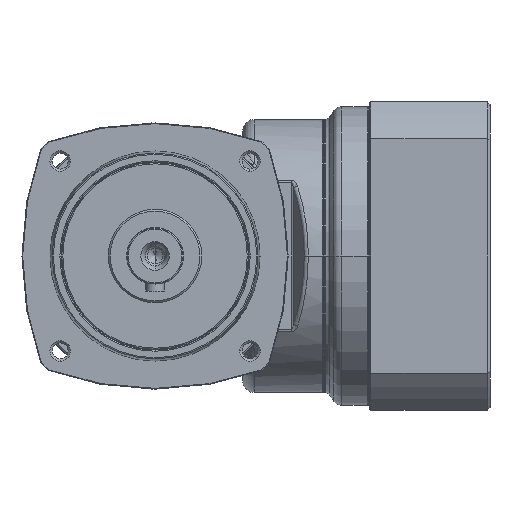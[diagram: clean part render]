
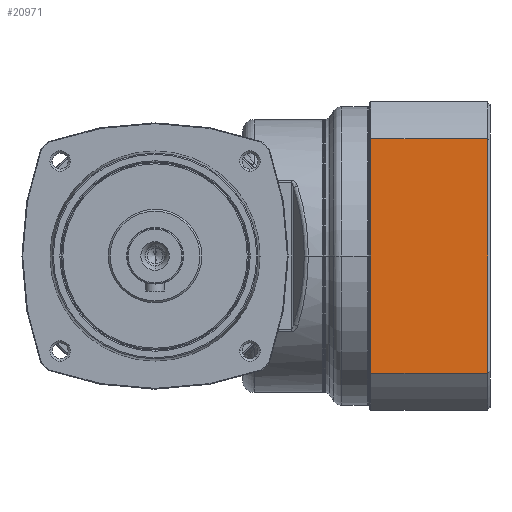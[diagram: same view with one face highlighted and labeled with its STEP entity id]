
A CAD part, left-side view. The second image highlights one B-rep face of the part: STEP entity #20971.
In plain terms, the highlighted planar face has unit normal (-1, 0, 0) as drawn and (0, -1, 0) by its records, which use the part's own axes.
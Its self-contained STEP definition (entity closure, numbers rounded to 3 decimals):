
#19734=DIRECTION('',(1.,0.,0.));
#19735=VECTOR('',#19734,100.658);
#19736=CARTESIAN_POINT('',(-50.329,-66.,53.));
#19737=LINE('',#19736,#19735);
#19738=DIRECTION('',(0.,0.,1.));
#19739=VECTOR('',#19738,50.1);
#19740=CARTESIAN_POINT('',(50.329,-66.,
2.9));
#19741=LINE('',#19740,#19739);
#19742=DIRECTION('',(1.,0.,0.));
#19743=VECTOR('',#19742,100.658);
#19744=CARTESIAN_POINT('',(-50.329,-66.,
2.9));
#19745=LINE('',#19744,#19743);
#19746=DIRECTION('',(0.,0.,1.));
#19747=VECTOR('',#19746,50.1);
#19748=CARTESIAN_POINT('',(-50.329,-66.,
2.9));
#19749=LINE('',#19748,#19747);
#19755=CARTESIAN_POINT('',(50.329,-66.,53.));
#20070=CARTESIAN_POINT('',(-50.329,-66.,2.9));
#20072=VERTEX_POINT('',#20070);
#20075=CARTESIAN_POINT('',(50.329,-66.,
2.9));
#20076=VERTEX_POINT('',#20075);
#20122=CARTESIAN_POINT('',(-50.329,-66.,53.));
#20124=VERTEX_POINT('',#20122);
#20132=VERTEX_POINT('',#19755);
#20959=CARTESIAN_POINT('',(-66.,-66.,0.));
#20960=DIRECTION('',(0.,-1.,0.));
#20961=DIRECTION('',(1.,0.,0.));
#20962=AXIS2_PLACEMENT_3D('',#20959,#20960,#20961);
#20963=PLANE('',#20962);
#20965=ORIENTED_EDGE('',*,*,#20964,.T.);
#20966=ORIENTED_EDGE('',*,*,#20875,.F.);
#20967=ORIENTED_EDGE('',*,*,#20953,.F.);
#20968=ORIENTED_EDGE('',*,*,#20886,.T.);
#20969=EDGE_LOOP('',(#20965,#20966,#20967,#20968));
#20970=FACE_OUTER_BOUND('',#20969,.F.);
#20971=ADVANCED_FACE('',(#20970),#20963,.T.);
#20875=EDGE_CURVE('',#20076,#20132,#19741,.T.);
#20886=EDGE_CURVE('',#20072,#20124,#19749,.T.);
#20953=EDGE_CURVE('',#20072,#20076,#19745,.T.);
#20964=EDGE_CURVE('',#20124,#20132,#19737,.T.);
